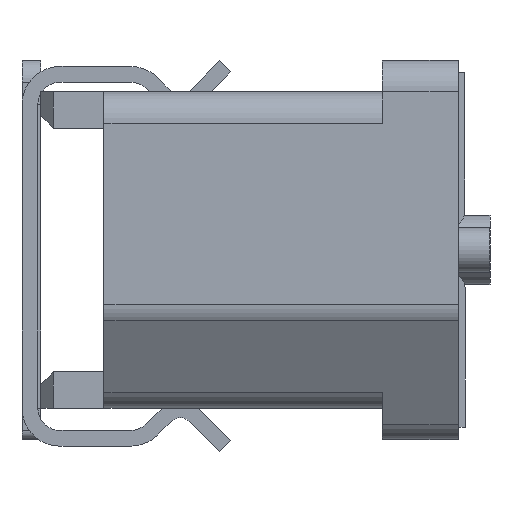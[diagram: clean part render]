
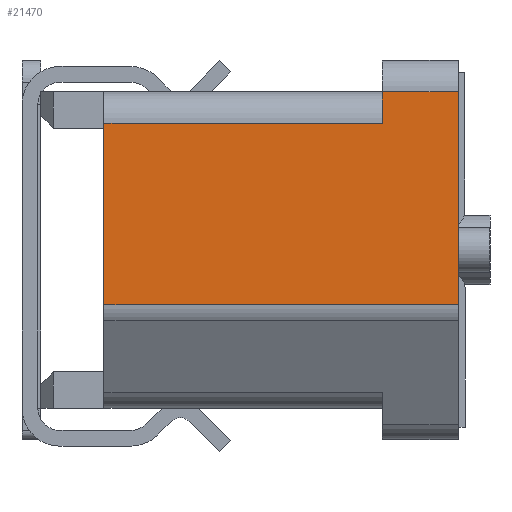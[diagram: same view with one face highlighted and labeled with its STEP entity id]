
A CAD part, left-side view. The second image highlights one B-rep face of the part: STEP entity #21470.
In plain terms, the highlighted planar face has unit normal (-1, 0, 0).
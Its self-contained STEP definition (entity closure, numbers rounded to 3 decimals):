
#5041 = PLANE ( 'NONE',  #5647 ) ;
#5044 = CARTESIAN_POINT ( 'NONE',  ( 0., 0., 5.5 ) ) ;
#5048 = FACE_OUTER_BOUND ( 'NONE', #39703, .T. ) ;
#5050 = DIRECTION ( 'NONE',  ( 1., 0., 0. ) ) ;
#5051 = DIRECTION ( 'NONE',  ( 0., 0., -1. ) ) ;
#5647 = AXIS2_PLACEMENT_3D ( 'NONE', #5044, #5050, #5051 ) ;
#19186 = EDGE_CURVE ( 'NONE', #20140, #20144, #32614, .T. ) ;
#19263 = EDGE_CURVE ( 'NONE', #20140, #20174, #32735, .T. ) ;
#19265 = EDGE_CURVE ( 'NONE', #20174, #20178, #32727, .T. ) ;
#19266 = EDGE_CURVE ( 'NONE', #20170, #20178, #32741, .T. ) ;
#19268 = EDGE_CURVE ( 'NONE', #20170, #20180, #32726, .T. ) ;
#19270 = EDGE_CURVE ( 'NONE', #20180, #20144, #32747, .T. ) ;
#20140 = VERTEX_POINT ( 'NONE', #34213 ) ;
#20144 = VERTEX_POINT ( 'NONE', #34217 ) ;
#20170 = VERTEX_POINT ( 'NONE', #34243 ) ;
#20174 = VERTEX_POINT ( 'NONE', #34247 ) ;
#20178 = VERTEX_POINT ( 'NONE', #34251 ) ;
#20180 = VERTEX_POINT ( 'NONE', #34253 ) ;
#21470 = ADVANCED_FACE ( 'NONE', ( #5048 ), #5041, .F. ) ;
#32424 = VECTOR ( 'NONE', #32622, 1000. ) ;
#32467 = VECTOR ( 'NONE', #32740, 1000. ) ;
#32472 = VECTOR ( 'NONE', #32738, 1000. ) ;
#32473 = VECTOR ( 'NONE', #32746, 1000. ) ;
#32474 = VECTOR ( 'NONE', #32744, 1000. ) ;
#32476 = VECTOR ( 'NONE', #32749, 1000. ) ;
#32614 = LINE ( 'NONE', #32620, #32424 ) ;
#32620 = CARTESIAN_POINT ( 'NONE',  ( 0., 2.8, 2.138 ) ) ;
#32622 = DIRECTION ( 'NONE',  ( 0., 1., 0. ) ) ;
#32726 = LINE ( 'NONE', #32745, #32473 ) ;
#32727 = LINE ( 'NONE', #32739, #32467 ) ;
#32735 = LINE ( 'NONE', #32737, #32472 ) ;
#32737 = CARTESIAN_POINT ( 'NONE',  ( 0., 0., 3. ) ) ;
#32738 = DIRECTION ( 'NONE',  ( 0., 0., 1. ) ) ;
#32739 = CARTESIAN_POINT ( 'NONE',  ( 0., 0.6, 5.5 ) ) ;
#32740 = DIRECTION ( 'NONE',  ( 0., 1., 0. ) ) ;
#32741 = LINE ( 'NONE', #32743, #32474 ) ;
#32743 = CARTESIAN_POINT ( 'NONE',  ( 0., 1.2, 3.819 ) ) ;
#32744 = DIRECTION ( 'NONE',  ( 0., 0., 1. ) ) ;
#32745 = CARTESIAN_POINT ( 'NONE',  ( 0., 3.4, 5. ) ) ;
#32746 = DIRECTION ( 'NONE',  ( 0., 1., 0. ) ) ;
#32747 = LINE ( 'NONE', #32748, #32476 ) ;
#32748 = CARTESIAN_POINT ( 'NONE',  ( 0., 5.6, 3. ) ) ;
#32749 = DIRECTION ( 'NONE',  ( 0., 0., -1. ) ) ;
#34213 = CARTESIAN_POINT ( 'NONE',  ( 0., 0., 2.138 ) ) ;
#34217 = CARTESIAN_POINT ( 'NONE',  ( 0., 5.6, 2.138 ) ) ;
#34243 = CARTESIAN_POINT ( 'NONE',  ( 0., 1.2, 5. ) ) ;
#34247 = CARTESIAN_POINT ( 'NONE',  ( 0., 0., 5.5 ) ) ;
#34251 = CARTESIAN_POINT ( 'NONE',  ( 0., 1.2, 5.5 ) ) ;
#34253 = CARTESIAN_POINT ( 'NONE',  ( 0., 5.6, 5. ) ) ;
#35472 = ORIENTED_EDGE ( 'NONE', *, *, #19186, .F. ) ;
#35473 = ORIENTED_EDGE ( 'NONE', *, *, #19263, .T. ) ;
#35474 = ORIENTED_EDGE ( 'NONE', *, *, #19265, .T. ) ;
#35475 = ORIENTED_EDGE ( 'NONE', *, *, #19266, .F. ) ;
#35476 = ORIENTED_EDGE ( 'NONE', *, *, #19268, .T. ) ;
#35477 = ORIENTED_EDGE ( 'NONE', *, *, #19270, .T. ) ;
#39703 = EDGE_LOOP ( 'NONE', ( #35472, #35473, #35474, #35475, #35476, #35477 ) ) ;
